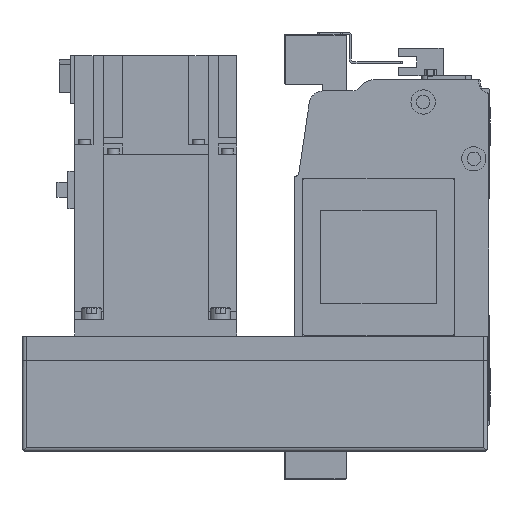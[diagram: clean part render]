
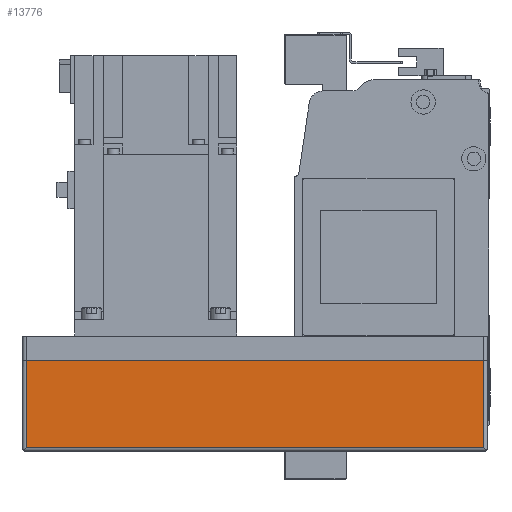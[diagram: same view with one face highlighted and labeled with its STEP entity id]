
A CAD part, left-side view. The second image highlights one B-rep face of the part: STEP entity #13776.
In plain terms, the highlighted planar face has unit normal (-1, 0, 0) as drawn and (0, -1, 0) by its records, which use the part's own axes.
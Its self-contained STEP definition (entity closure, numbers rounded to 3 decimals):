
#2371=ORIENTED_EDGE('',*,*,#5660,.F.);
#2372=ORIENTED_EDGE('',*,*,#5663,.T.);
#2373=ORIENTED_EDGE('',*,*,#5664,.T.);
#2374=ORIENTED_EDGE('',*,*,#5665,.F.);
#5660=EDGE_CURVE('',#7435,#7436,#8883,.T.);
#5663=EDGE_CURVE('',#7435,#7438,#8885,.T.);
#5664=EDGE_CURVE('',#7438,#7439,#8886,.T.);
#5665=EDGE_CURVE('',#7436,#7439,#8887,.T.);
#7435=VERTEX_POINT('',#21571);
#7436=VERTEX_POINT('',#21573);
#7438=VERTEX_POINT('',#21579);
#7439=VERTEX_POINT('',#21581);
#8883=LINE('',#21572,#10196);
#8885=LINE('',#21578,#10198);
#8886=LINE('',#21580,#10199);
#8887=LINE('',#21582,#10200);
#10196=VECTOR('',#17230,1000.);
#10198=VECTOR('',#17236,1000.);
#10199=VECTOR('',#17237,1000.);
#10200=VECTOR('',#17238,1000.);
#11320=EDGE_LOOP('',(#2371,#2372,#2373,#2374));
#12335=FACE_BOUND('',#11320,.T.);
#13200=PLANE('',#14778);
#13776=ADVANCED_FACE('',(#12335),#13200,.T.);
#14778=AXIS2_PLACEMENT_3D('',#21577,#17234,#17235);
#17230=DIRECTION('',(0.,0.,1.));
#17234=DIRECTION('',(0.,-1.,0.));
#17235=DIRECTION('',(0.,0.,-1.));
#17236=DIRECTION('',(1.,0.,0.));
#17237=DIRECTION('',(0.,0.,1.));
#17238=DIRECTION('',(1.,0.,0.));
#21571=CARTESIAN_POINT('',(-228.,-54.,-55.));
#21572=CARTESIAN_POINT('',(-228.,-54.,-57.));
#21573=CARTESIAN_POINT('',(-228.,-54.,-12.));
#21577=CARTESIAN_POINT('',(-228.,-54.,-57.));
#21578=CARTESIAN_POINT('',(-230.,-54.,-55.));
#21579=CARTESIAN_POINT('',(-2.,-54.,-55.));
#21580=CARTESIAN_POINT('',(-2.,-54.,-57.));
#21581=CARTESIAN_POINT('',(-2.,-54.,-12.));
#21582=CARTESIAN_POINT('',(-228.,-54.,-12.));
